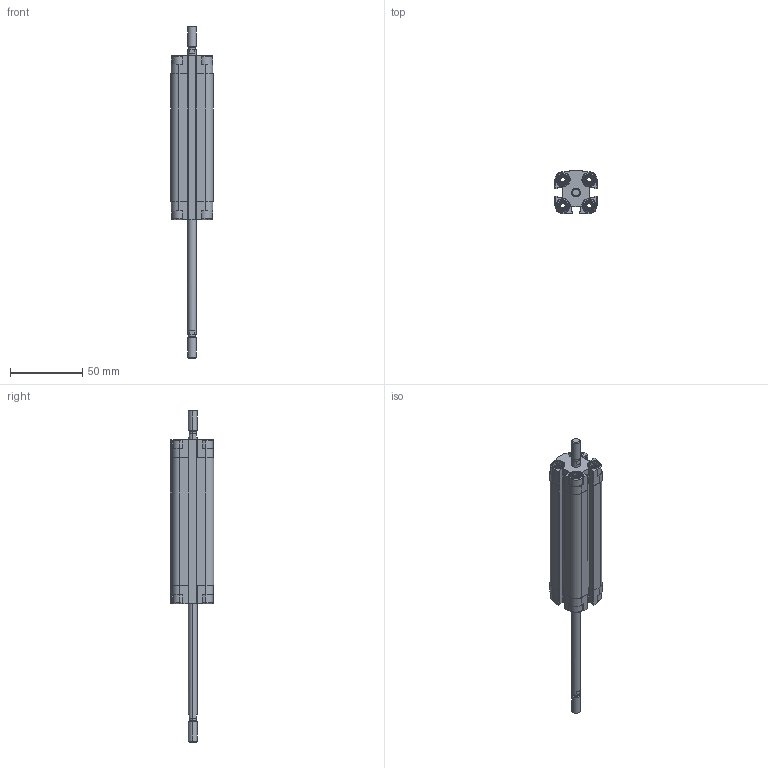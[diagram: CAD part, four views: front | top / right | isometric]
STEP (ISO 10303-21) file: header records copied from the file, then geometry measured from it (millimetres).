
FILE_DESCRIPTION (( 'STEP AP203' ), '1' );
FILE_NAME ('CDVU12-75M-P.STEP', '2020-07-21T14:57:15', ( '' ), ( '' ), 'SwSTEP 2.0', 'SolidWorks 2019', '' );
FILE_SCHEMA (( 'CONFIG_CONTROL_DESIGN' ));
Length unit declared in the file: millimetre
Products named in the file (1): CDVU12-75M-P
Bounding box: 29 x 30 x 229 mm (x, y, z)
Volume: 67281.6 mm3; surface area: 35576.2 mm2
Topology: 2 solids, 2 shells, 566 faces, 1504 edges, 978 vertices
Faces by surface type: plane 338, cylinder 164, cone 48, torus 16
Entity records: 17771 total; most frequent: CARTESIAN_POINT 3621, ORIENTED_EDGE 3000, DIRECTION 2850, EDGE_CURVE 1500, VERTEX_POINT 978, AXIS2_PLACEMENT_3D 975, VECTOR 900, LINE 900
